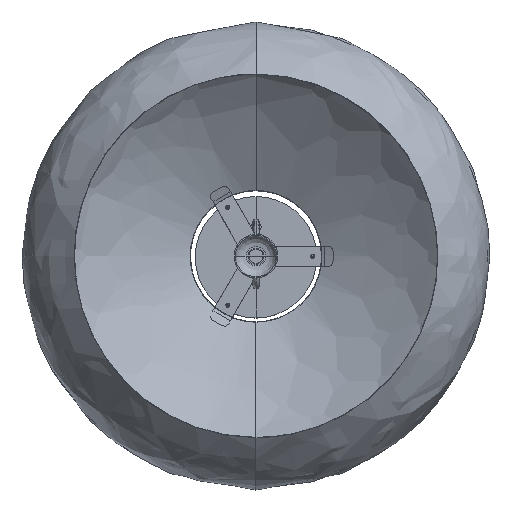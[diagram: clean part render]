
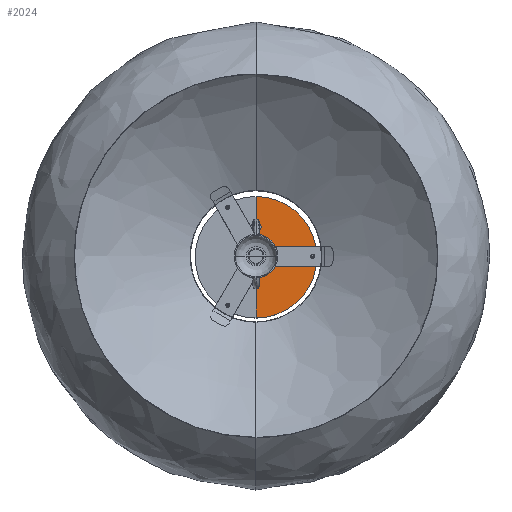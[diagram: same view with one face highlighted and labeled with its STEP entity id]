
A CAD part, top view. The second image highlights one B-rep face of the part: STEP entity #2024.
In plain terms, the highlighted planar face has unit normal (0, 0, 1).
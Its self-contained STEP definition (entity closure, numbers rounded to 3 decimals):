
#132=PLANE('',#2184);
#223=FACE_OUTER_BOUND('',#353,.T.);
#353=EDGE_LOOP('',(#1523,#1524,#1525,#1526,#1527,#1528,#1529));
#479=LINE('',#13303,#643);
#480=LINE('',#13304,#644);
#481=LINE('',#13305,#645);
#643=VECTOR('',#2521,304.8);
#644=VECTOR('',#2522,304.8);
#645=VECTOR('',#2523,304.8);
#792=CIRCLE('',#2169,5.125);
#799=CIRCLE('',#2178,5.125);
#800=CIRCLE('',#2180,5.125);
#804=CIRCLE('',#2185,60.);
#916=VERTEX_POINT('',#13268);
#918=VERTEX_POINT('',#13271);
#921=VERTEX_POINT('',#13281);
#925=VERTEX_POINT('',#13289);
#926=VERTEX_POINT('',#13293);
#928=VERTEX_POINT('',#13300);
#929=VERTEX_POINT('',#13301);
#1131=EDGE_CURVE('',#918,#916,#792,.T.);
#1141=EDGE_CURVE('',#921,#925,#799,.T.);
#1142=EDGE_CURVE('',#926,#921,#800,.T.);
#1146=EDGE_CURVE('',#928,#929,#804,.T.);
#1147=EDGE_CURVE('',#926,#928,#479,.T.);
#1148=EDGE_CURVE('',#918,#925,#480,.T.);
#1149=EDGE_CURVE('',#929,#916,#481,.T.);
#1523=ORIENTED_EDGE('',*,*,#1146,.F.);
#1524=ORIENTED_EDGE('',*,*,#1147,.F.);
#1525=ORIENTED_EDGE('',*,*,#1142,.T.);
#1526=ORIENTED_EDGE('',*,*,#1141,.T.);
#1527=ORIENTED_EDGE('',*,*,#1148,.F.);
#1528=ORIENTED_EDGE('',*,*,#1131,.T.);
#1529=ORIENTED_EDGE('',*,*,#1149,.F.);
#2024=ADVANCED_FACE('',(#223),#132,.F.);
#2169=AXIS2_PLACEMENT_3D('',#13272,#2484,#2485);
#2178=AXIS2_PLACEMENT_3D('',#13291,#2505,#2506);
#2180=AXIS2_PLACEMENT_3D('',#13294,#2509,#2510);
#2184=AXIS2_PLACEMENT_3D('',#13299,#2517,#2518);
#2185=AXIS2_PLACEMENT_3D('',#13302,#2519,#2520);
#2484=DIRECTION('center_axis',(0.,0.,-1.));
#2485=DIRECTION('ref_axis',(0.,-1.,0.));
#2505=DIRECTION('center_axis',(0.,0.,-1.));
#2506=DIRECTION('ref_axis',(-1.,0.,0.));
#2509=DIRECTION('center_axis',(0.,0.,-1.));
#2510=DIRECTION('ref_axis',(-1.,0.,0.));
#2517=DIRECTION('center_axis',(0.,0.,-1.));
#2518=DIRECTION('ref_axis',(0.,-1.,0.));
#2519=DIRECTION('center_axis',(0.,0.,-1.));
#2520=DIRECTION('ref_axis',(0.,-1.,0.));
#2521=DIRECTION('',(0.,1.,0.));
#2522=DIRECTION('',(0.,1.,0.));
#2523=DIRECTION('',(0.,1.,0.));
#13268=CARTESIAN_POINT('',(0.,-5.125,26.));
#13271=CARTESIAN_POINT('',(0.,5.125,26.));
#13272=CARTESIAN_POINT('Origin',(0.,0.,
26.));
#13281=CARTESIAN_POINT('',(5.125,30.,26.));
#13289=CARTESIAN_POINT('',(0.,24.875,26.));
#13291=CARTESIAN_POINT('Origin',(0.,30.,
26.));
#13293=CARTESIAN_POINT('',(0.,35.125,26.));
#13294=CARTESIAN_POINT('Origin',(0.,30.,
26.));
#13299=CARTESIAN_POINT('Origin',(0.,0.,
26.));
#13300=CARTESIAN_POINT('',(0.,60.,26.));
#13301=CARTESIAN_POINT('',(0.,-60.,26.));
#13302=CARTESIAN_POINT('Origin',(0.,0.,
26.));
#13303=CARTESIAN_POINT('',(0.,35.125,26.));
#13304=CARTESIAN_POINT('',(0.,5.125,26.));
#13305=CARTESIAN_POINT('',(0.,-60.,26.));
